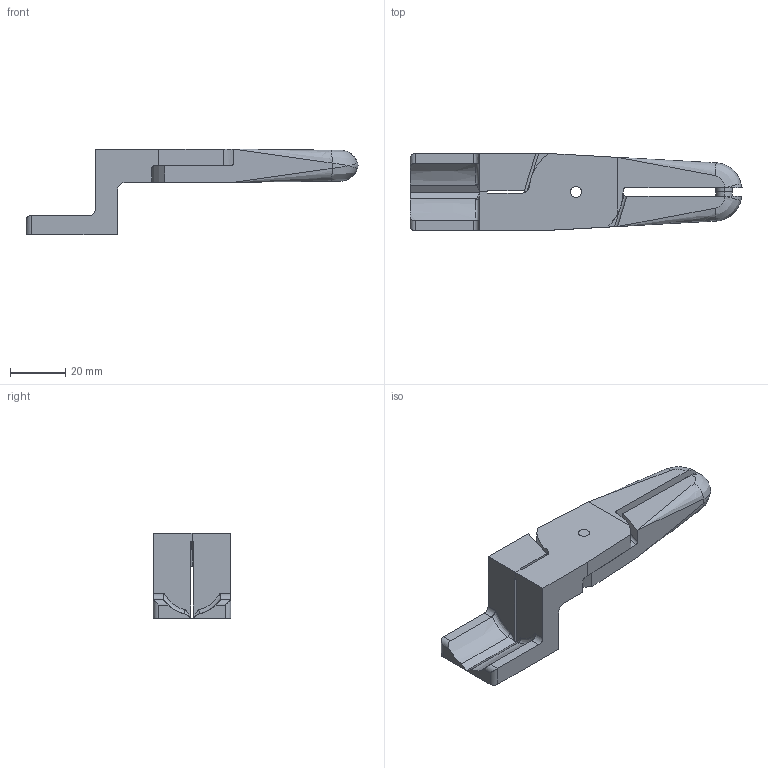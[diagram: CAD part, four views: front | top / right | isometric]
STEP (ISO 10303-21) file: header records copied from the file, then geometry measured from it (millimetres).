
FILE_DESCRIPTION (( 'STEP AP214' ), '1' );
FILE_NAME ('N20AH.STEP', '2019-11-29T08:36:25', ( '微软用户' ), ( '微软中国' ), 'SwSTEP 2.0', 'SolidWorks 2016', '' );
FILE_SCHEMA (( 'AUTOMOTIVE_DESIGN' ));
Length unit declared in the file: millimetre
Products named in the file (1): N20AH
Bounding box: 119.99 x 28 x 31 mm (x, y, z)
Surface area: 13816.6 mm2 (no closed solid volume)
Topology: 0 solids, 5 shells, 100 faces, 289 edges, 185 vertices
Faces by surface type: plane 50, bspline 26, cylinder 24
Full cylindrical faces by diameter (mm): 4.1 x1
Entity records: 6545 total; most frequent: CARTESIAN_POINT 3688, ORIENTED_EDGE 530, DIRECTION 381, EDGE_CURVE 280, VERTEX_POINT 185, VECTOR 153, LINE 153, AXIS2_PLACEMENT_3D 114
